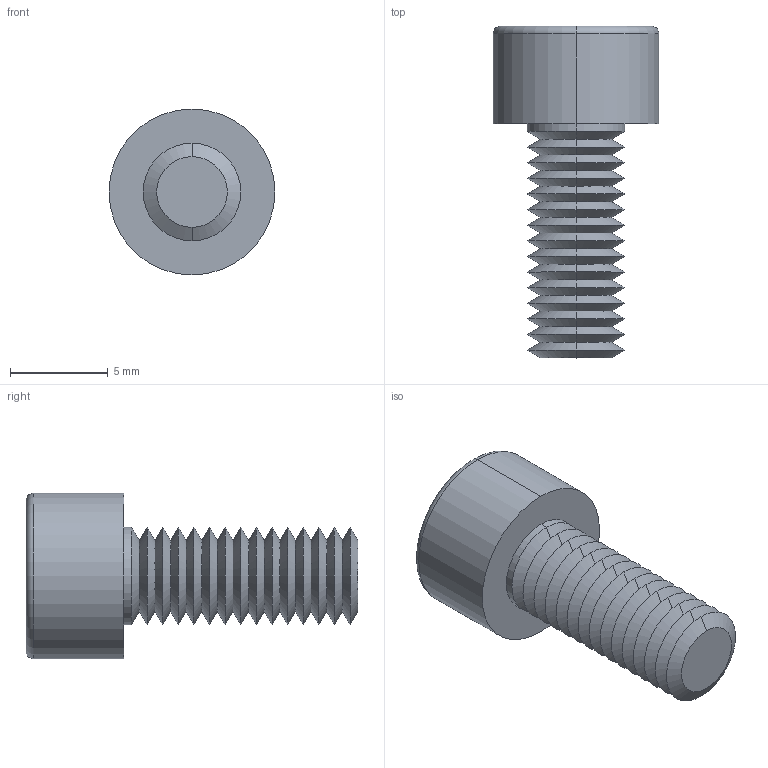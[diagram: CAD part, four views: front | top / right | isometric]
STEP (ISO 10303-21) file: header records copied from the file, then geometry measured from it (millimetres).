
FILE_DESCRIPTION (( 'STEP AP203' ), '1' );
FILE_NAME ('91N.050.0120.step', '2025-05-20T08:51:33', ( '' ), ( '' ), 'SwSTEP 2.0', 'SolidWorks 2019', '' );
FILE_SCHEMA (( 'CONFIG_CONTROL_DESIGN' ));
Length unit declared in the file: millimetre
Products named in the file (1): 91N.050.0120
Bounding box: 8.5 x 17 x 8.5 mm (x, y, z)
Volume: 400.8 mm3; surface area: 609.9 mm2
Topology: 1 solids, 1 shells, 88 faces, 175 edges, 89 vertices
Faces by surface type: cone 67, plane 15, cylinder 4, torus 2
Entity records: 2278 total; most frequent: DIRECTION 427, CARTESIAN_POINT 378, ORIENTED_EDGE 346, EDGE_CURVE 173, AXIS2_PLACEMENT_3D 172, EDGE_LOOP 90, VERTEX_POINT 89, ADVANCED_FACE 88
